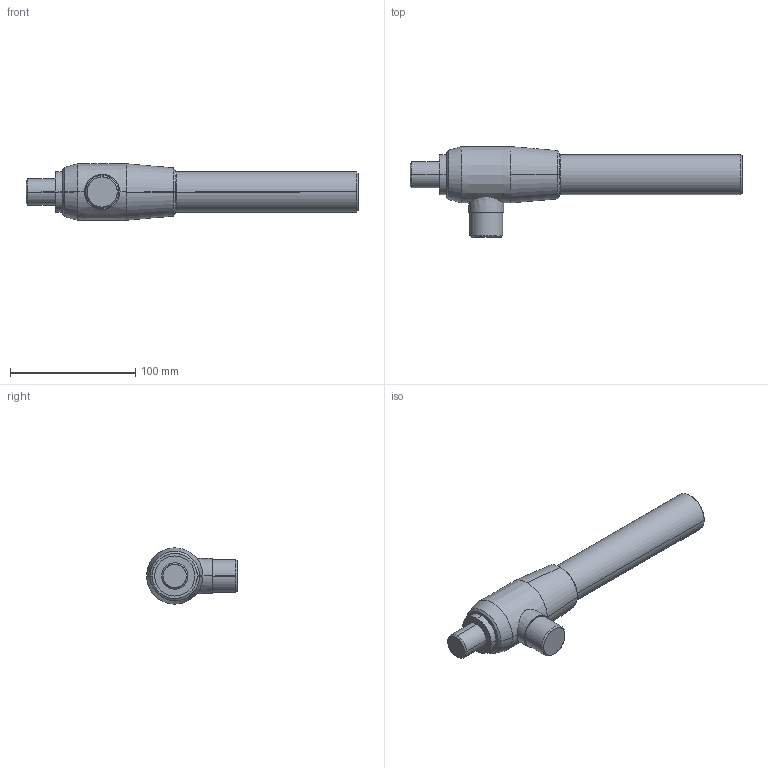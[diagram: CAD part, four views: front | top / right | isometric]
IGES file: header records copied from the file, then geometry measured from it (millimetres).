
Start section: SolidWorks IGES file using analytic representation for surfaces
Global section: file name: K:\SAPELEM\BUREAU D'ETUDES\Dossiers S\S100_S199\S170 Site internet\3D\2EJBl7450000.IGS; native system: SolidWorks 2007; preprocessor: SolidWorks 2007; author: YAR; date: 080220.160759; units: millimetre
Bounding box: 265 x 72.5 x 45 mm (x, y, z)
Surface area: 35090.7 mm2 (no closed solid volume)
Topology: 0 solids, 0 shells, 59 faces, 961 edges, 961 vertices
Faces by surface type: revolution 51, bspline 8
